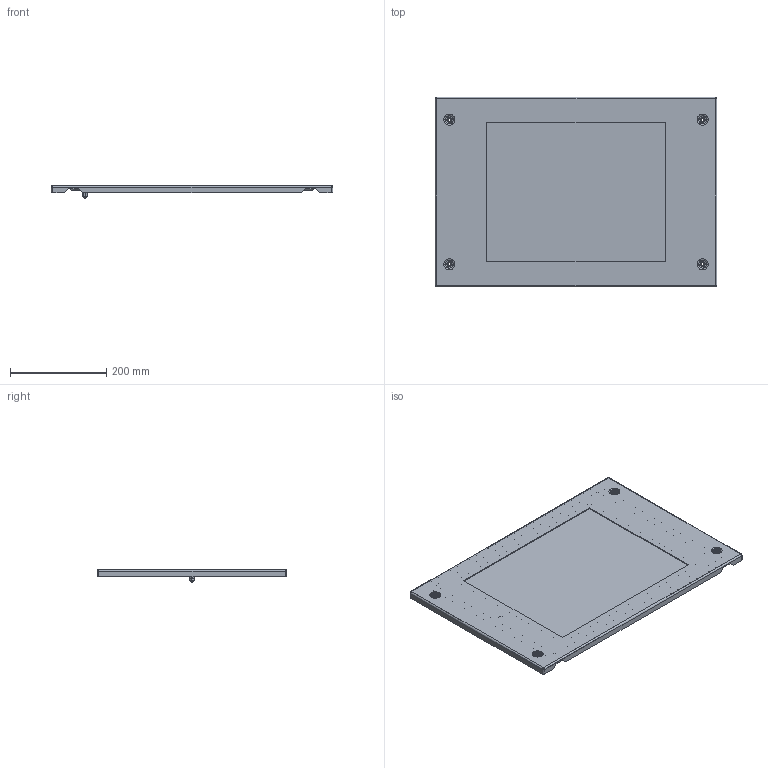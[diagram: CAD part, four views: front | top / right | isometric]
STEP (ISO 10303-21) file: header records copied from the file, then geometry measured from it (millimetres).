
FILE_DESCRIPTION (( 'STEP AP203' ), '1' );
FILE_NAME ('DP 40.60 V Ïàíåëü ñåêöèîííàÿ îáçîðíàÿ.STEP', '2014-06-30T08:29:02', ( 'System' ), ( '' ), 'SwSTEP 2.0', 'SolidWorks 2012', '' );
FILE_SCHEMA (( 'CONFIG_CONTROL_DESIGN' ));
Length unit declared in the file: millimetre
Products named in the file (1): DP 40.60 V Ïàíåëü ñåêöèîííàÿ îáçîðíàÿ
Bounding box: 585 x 394 x 26 mm (x, y, z)
Volume: 960571.1 mm3; surface area: 589124 mm2
Topology: 4 solids, 4 shells, 175 faces, 398 edges, 238 vertices
Faces by surface type: plane 61, cylinder 42, torus 40, cone 24, sphere 8
Entity records: 4953 total; most frequent: DIRECTION 948, CARTESIAN_POINT 804, ORIENTED_EDGE 780, EDGE_CURVE 390, AXIS2_PLACEMENT_3D 382, VERTEX_POINT 238, CIRCLE 206, EDGE_LOOP 200
